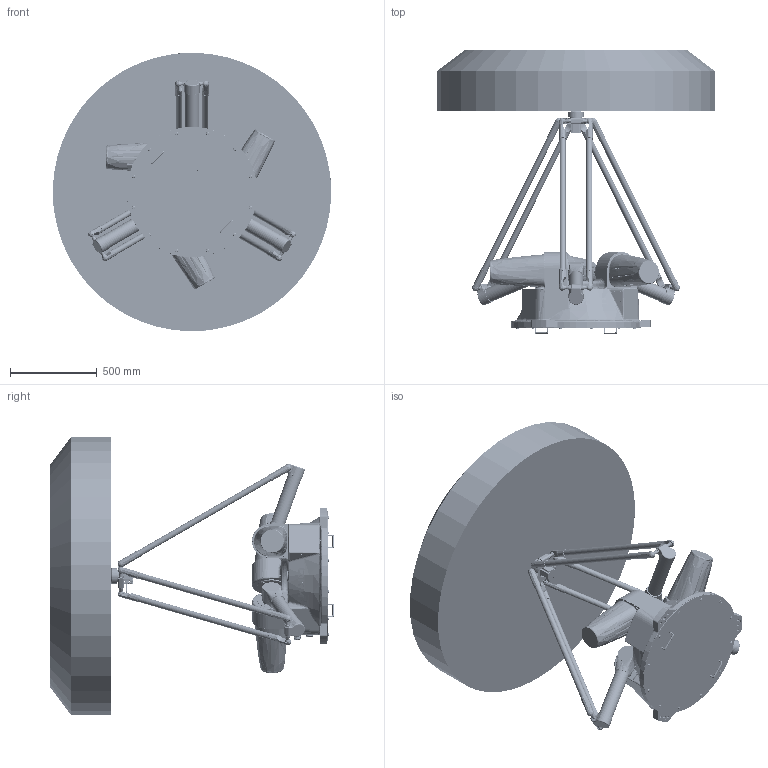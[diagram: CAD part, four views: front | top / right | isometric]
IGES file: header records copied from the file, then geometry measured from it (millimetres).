
Start section: SolidWorks IGES file using analytic representation for surfaces
Bounding box: 1598.44 x 1632 x 1598.44 mm (x, y, z)
Surface area: 10377141.4 mm2 (no closed solid volume)
Topology: 0 solids, 0 shells, 8558 faces, 119738 edges, 119220 vertices
Faces by surface type: bspline 4809, revolution 3749
